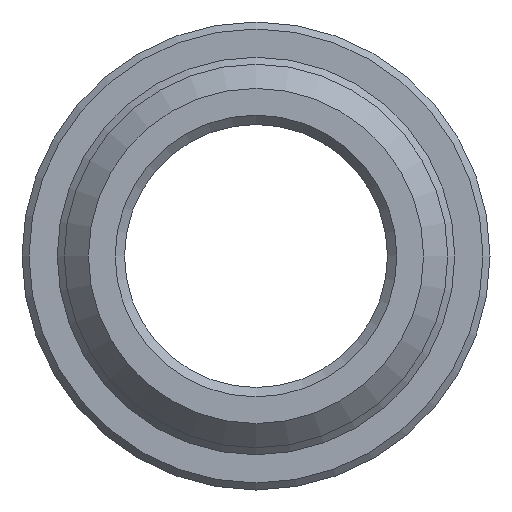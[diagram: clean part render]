
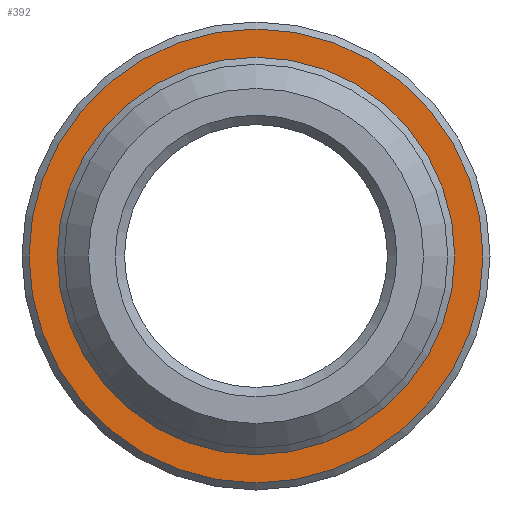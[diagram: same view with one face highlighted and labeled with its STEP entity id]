
A CAD part, front view. The second image highlights one B-rep face of the part: STEP entity #392.
In plain terms, the highlighted planar face has unit normal (0, -1, 0).
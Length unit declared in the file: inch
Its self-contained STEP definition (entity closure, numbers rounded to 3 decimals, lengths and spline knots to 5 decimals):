
#33=FACE_BOUND('',#86,.T.);
#44=PLANE('',#443);
#60=FACE_OUTER_BOUND('',#85,.T.);
#85=EDGE_LOOP('',(#316));
#86=EDGE_LOOP('',(#317));
#158=CIRCLE('',#442,0.4247);
#159=CIRCLE('',#444,0.485);
#195=VERTEX_POINT('',#678);
#196=VERTEX_POINT('',#682);
#243=EDGE_CURVE('',#195,#195,#158,.T.);
#244=EDGE_CURVE('',#196,#196,#159,.T.);
#316=ORIENTED_EDGE('',*,*,#244,.F.);
#317=ORIENTED_EDGE('',*,*,#243,.F.);
#392=ADVANCED_FACE('',(#60,#33),#44,.T.);
#442=AXIS2_PLACEMENT_3D('',#680,#536,#537);
#443=AXIS2_PLACEMENT_3D('',#681,#538,#539);
#444=AXIS2_PLACEMENT_3D('',#683,#540,#541);
#536=DIRECTION('center_axis',(0.,-1.,0.));
#537=DIRECTION('ref_axis',(0.,0.,-1.));
#538=DIRECTION('center_axis',(0.,-1.,0.));
#539=DIRECTION('ref_axis',(0.,0.,-1.));
#540=DIRECTION('center_axis',(0.,1.,0.));
#541=DIRECTION('ref_axis',(0.,0.,1.));
#678=CARTESIAN_POINT('',(0.,8.5,0.4247));
#680=CARTESIAN_POINT('Origin',(0.,8.5,0.));
#681=CARTESIAN_POINT('Origin',(0.,8.5,-0.42));
#682=CARTESIAN_POINT('',(0.,8.5,-0.485));
#683=CARTESIAN_POINT('Origin',(0.,8.5,0.));
